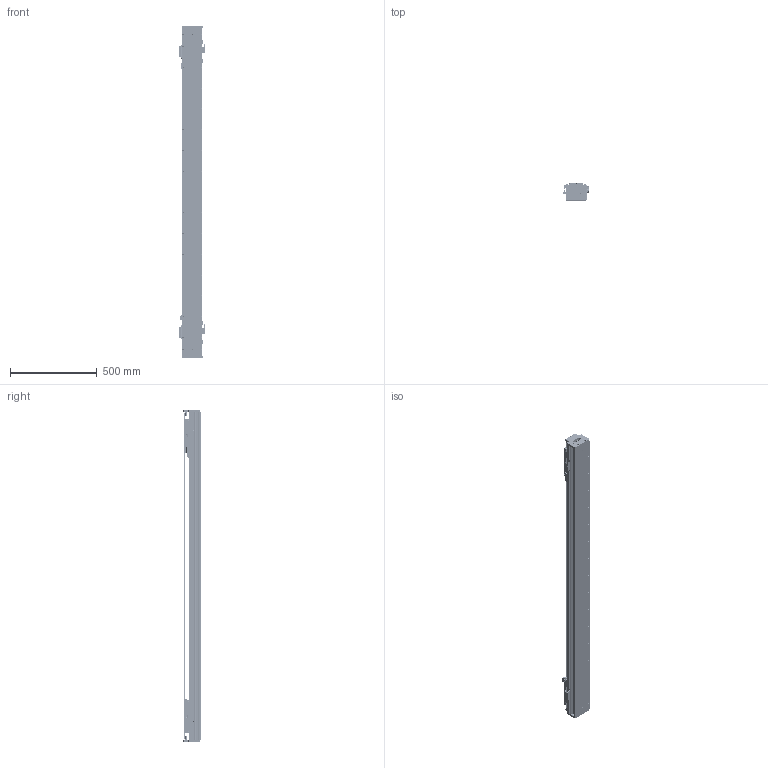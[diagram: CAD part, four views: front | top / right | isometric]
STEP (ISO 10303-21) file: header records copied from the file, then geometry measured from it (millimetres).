
FILE_DESCRIPTION (( 'STEP AP203' ), '1' );
FILE_NAME ('DKW119-2×C2-W060(T1400-L005-0.2).STEP', '2021-09-15T06:18:16', ( '微软用户' ), ( '微软中国' ), 'SwSTEP 2.0', 'SolidWorks 2018', '' );
FILE_SCHEMA (( 'CONFIG_CONTROL_DESIGN' ));
Length unit declared in the file: millimetre
Products named in the file (26): 嫖萇羲壽蚾饜极; 06652-0001-004-00 DKW120嶺輸菜輸; RUS嫖掑喜; 嫖萇羲壽蚾饜极A; 12018-0001-002-00 詩湍; 12018-0001-001-00 菁釱; Ru2; DKW-SG-GYP-H-00 嫖萇覜茼え; 砎蝶猾沭; MSB15-DG-U; CKM02-W060_00; 12160-0000-003-00 DKW120詩湍嶺輸; DKW119-RU-DTJ-00 RU2黍杅芛盓殤; DKW-DG-XJ-Z-00 笢潔滅袉砎蝶; 12160-0000-004-00  DKW120詩湍揤輸; 电机出线 ^DKW119-2×C2-W060(T1400-L005-0.2); DKW-GYP-ZJ-00 笢潔嫖萇覜茼え; DKW119 单轴模组-拉钢带组件; CKMA01-W060-TRLxxx; DKW-KGZ-ZJ-00 中间光电开关支架; pm-y65; DKW-HXJ-JY-00 遣喳砎蝶; EE_SX674A; 10980-0001-003-00 嫖萇羲壽嘐隅釱; 11062-0001-004-00 DKW119傷啣; DKW119-2×C2-W060(T1400-L005-0.2)
Assembly tree (45 placements, depth 3):
  DKW119-2×C2-W060(T1400-L005-0.2)
    12018-0001-001-00 菁釱
    MSB15-DG-U  x2
    DKW119-RU-DTJ-00 RU2黍杅芛盓殤  x2
    电机出线 ^DKW119-2×C2-W060(T1400-L005-0.2)  x2
    CKMA01-W060-TRLxxx
    DKW119 单轴模组-拉钢带组件
      DKW-HXJ-JY-00 遣喳砎蝶  x4
      11062-0001-004-00 DKW119傷啣  x2
      06652-0001-004-00 DKW120嶺輸菜輸  x4
      12018-0001-002-00 詩湍
      砎蝶猾沭  x2
      12160-0000-003-00 DKW120詩湍嶺輸  x2
      12160-0000-004-00  DKW120詩湍揤輸  x2
    嫖萇羲壽蚾饜极
      pm-y65  x2
      10980-0001-003-00 嫖萇羲壽嘐隅釱
    嫖萇羲壽蚾饜极A
      pm-y65  x2
      10980-0001-003-00 嫖萇羲壽嘐隅釱
    DKW-SG-GYP-H-00 嫖萇覜茼え  x2
    RUS嫖掑喜
    Ru2  x2
    CKM02-W060_00  x2
    DKW-DG-XJ-Z-00 笢潔滅袉砎蝶
    DKW-GYP-ZJ-00 笢潔嫖萇覜茼え
    DKW-KGZ-ZJ-00 中间光电开关支架
    EE_SX674A
Bounding box: 154.3 x 99 x 1916 mm (x, y, z)
Volume: 9067915.5 mm3; surface area: 2885419.7 mm2
Topology: 62 solids, 160 shells, 6449 faces, 17102 edges, 10950 vertices
Faces by surface type: plane 3468, cylinder 1953, cone 534, bspline 494
Entity records: 132967 total; most frequent: CARTESIAN_POINT 43926, ORIENTED_EDGE 17827, DIRECTION 17214, EDGE_CURVE 8954, VERTEX_POINT 5868, AXIS2_PLACEMENT_3D 5806, VECTOR 5602, LINE 5602
